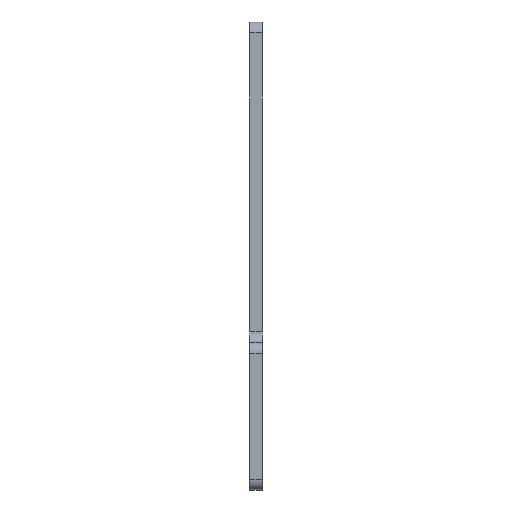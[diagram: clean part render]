
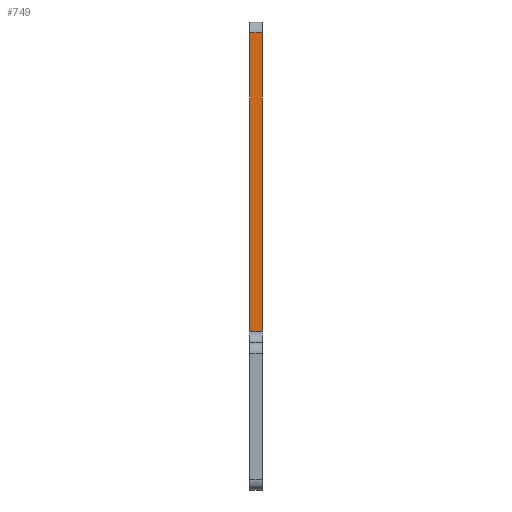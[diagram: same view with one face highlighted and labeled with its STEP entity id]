
A CAD part, left-side view. The second image highlights one B-rep face of the part: STEP entity #749.
In plain terms, the highlighted planar face has unit normal (-1, 0, 0).
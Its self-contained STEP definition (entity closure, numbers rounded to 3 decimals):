
#44 = DIRECTION ( 'NONE',  ( 0., 0., -1. ) ) ;
#71 = ORIENTED_EDGE ( 'NONE', *, *, #397, .T. ) ;
#97 = DIRECTION ( 'NONE',  ( 0., -1., 0. ) ) ;
#103 = LINE ( 'NONE', #572, #725 ) ;
#104 = EDGE_CURVE ( 'NONE', #231, #259, #502, .T. ) ;
#125 = CARTESIAN_POINT ( 'NONE',  ( -23., 4., 119.634 ) ) ;
#139 = EDGE_LOOP ( 'NONE', ( #878, #190, #71, #747 ) ) ;
#155 = VERTEX_POINT ( 'NONE', #435 ) ;
#190 = ORIENTED_EDGE ( 'NONE', *, *, #239, .F. ) ;
#191 = DIRECTION ( 'NONE',  ( -1., 0., 0. ) ) ;
#231 = VERTEX_POINT ( 'NONE', #303 ) ;
#239 = EDGE_CURVE ( 'NONE', #547, #231, #536, .T. ) ;
#259 = VERTEX_POINT ( 'NONE', #619 ) ;
#263 = CARTESIAN_POINT ( 'NONE',  ( -23., 0., 119.634 ) ) ;
#273 = FACE_OUTER_BOUND ( 'NONE', #139, .T. ) ;
#278 = CARTESIAN_POINT ( 'NONE',  ( -23., 4., 119.634 ) ) ;
#303 = CARTESIAN_POINT ( 'NONE',  ( -23., 0., 119.634 ) ) ;
#308 = AXIS2_PLACEMENT_3D ( 'NONE', #125, #191, #721 ) ;
#342 = DIRECTION ( 'NONE',  ( 0., 0., -1. ) ) ;
#347 = VECTOR ( 'NONE', #97, 1000. ) ;
#383 = CARTESIAN_POINT ( 'NONE',  ( -23., 4., 119.634 ) ) ;
#397 = EDGE_CURVE ( 'NONE', #547, #155, #447, .T. ) ;
#435 = CARTESIAN_POINT ( 'NONE',  ( -23., 4., 26.366 ) ) ;
#447 = LINE ( 'NONE', #852, #651 ) ;
#464 = VECTOR ( 'NONE', #342, 1000. ) ;
#502 = LINE ( 'NONE', #263, #464 ) ;
#536 = LINE ( 'NONE', #383, #347 ) ;
#547 = VERTEX_POINT ( 'NONE', #278 ) ;
#572 = CARTESIAN_POINT ( 'NONE',  ( -23., 4., 26.366 ) ) ;
#619 = CARTESIAN_POINT ( 'NONE',  ( -23., 0., 26.366 ) ) ;
#647 = DIRECTION ( 'NONE',  ( 0., -1., 0. ) ) ;
#651 = VECTOR ( 'NONE', #44, 1000. ) ;
#658 = PLANE ( 'NONE',  #308 ) ;
#674 = EDGE_CURVE ( 'NONE', #155, #259, #103, .T. ) ;
#721 = DIRECTION ( 'NONE',  ( 0., 0., 1. ) ) ;
#725 = VECTOR ( 'NONE', #647, 1000. ) ;
#747 = ORIENTED_EDGE ( 'NONE', *, *, #674, .T. ) ;
#749 = ADVANCED_FACE ( 'NONE', ( #273 ), #658, .T. ) ;
#852 = CARTESIAN_POINT ( 'NONE',  ( -23., 4., 119.634 ) ) ;
#878 = ORIENTED_EDGE ( 'NONE', *, *, #104, .F. ) ;
